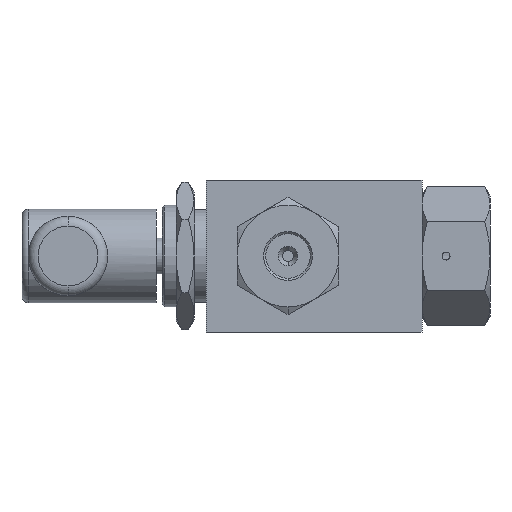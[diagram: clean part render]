
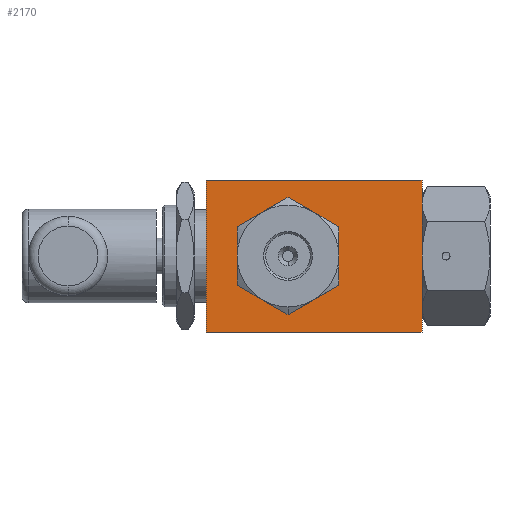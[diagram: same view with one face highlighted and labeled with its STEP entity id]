
A CAD part, left-side view. The second image highlights one B-rep face of the part: STEP entity #2170.
In plain terms, the highlighted planar face has unit normal (-1, 0, 0).
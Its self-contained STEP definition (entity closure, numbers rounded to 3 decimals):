
#88 = EDGE_CURVE ( 'NONE', #2340, #2541, #6264, .T. ) ;
#187 = VECTOR ( 'NONE', #4804, 1000. ) ;
#206 = DIRECTION ( 'NONE',  ( 1., 0., 0. ) ) ;
#281 = CARTESIAN_POINT ( 'NONE',  ( -33.25, 6.5, 0. ) ) ;
#298 = EDGE_CURVE ( 'NONE', #2340, #3235, #3786, .T. ) ;
#313 = CARTESIAN_POINT ( 'NONE',  ( -33.25, 6.5, 0. ) ) ;
#364 = CIRCLE ( 'NONE', #6436, 11. ) ;
#715 = EDGE_CURVE ( 'NONE', #2480, #5540, #797, .T. ) ;
#743 = CARTESIAN_POINT ( 'NONE',  ( -33.25, 6.5, 0. ) ) ;
#785 = AXIS2_PLACEMENT_3D ( 'NONE', #5078, #206, #1385 ) ;
#797 = CIRCLE ( 'NONE', #5775, 11. ) ;
#833 = DIRECTION ( 'NONE',  ( 1., 0., 0. ) ) ;
#936 = CARTESIAN_POINT ( 'NONE',  ( -33.25, 6.5, 0. ) ) ;
#1102 = EDGE_CURVE ( 'NONE', #3235, #1226, #6272, .T. ) ;
#1203 = CIRCLE ( 'NONE', #1304, 11. ) ;
#1221 = CARTESIAN_POINT ( 'NONE',  ( -33.25, 12., 9.526 ) ) ;
#1226 = VERTEX_POINT ( 'NONE', #2336 ) ;
#1269 = EDGE_CURVE ( 'NONE', #4660, #2717, #1203, .T. ) ;
#1294 = DIRECTION ( 'NONE',  ( 0., 0., -1. ) ) ;
#1304 = AXIS2_PLACEMENT_3D ( 'NONE', #743, #2750, #3310 ) ;
#1328 = DIRECTION ( 'NONE',  ( 0., 0., -1. ) ) ;
#1385 = DIRECTION ( 'NONE',  ( 0., 0., -1. ) ) ;
#1432 = DIRECTION ( 'NONE',  ( 0., -1., 0. ) ) ;
#1524 = CARTESIAN_POINT ( 'NONE',  ( -33.25, 6.5, 0. ) ) ;
#1593 = CARTESIAN_POINT ( 'NONE',  ( -33.25, 6.5, 0. ) ) ;
#1731 = LINE ( 'NONE', #2685, #2704 ) ;
#1759 = EDGE_CURVE ( 'NONE', #2717, #6028, #2492, .T. ) ;
#1799 = PLANE ( 'NONE',  #785 ) ;
#1848 = ORIENTED_EDGE ( 'NONE', *, *, #1759, .T. ) ;
#1849 = CARTESIAN_POINT ( 'NONE',  ( -33.25, 17.5, 0. ) ) ;
#1990 = VERTEX_POINT ( 'NONE', #4886 ) ;
#2016 = AXIS2_PLACEMENT_3D ( 'NONE', #1593, #833, #6775 ) ;
#2170 = ADVANCED_FACE ( 'NONE', ( #6106, #2894 ), #1799, .F. ) ;
#2336 = CARTESIAN_POINT ( 'NONE',  ( -33.25, -27., -19. ) ) ;
#2340 = VERTEX_POINT ( 'NONE', #3566 ) ;
#2397 = DIRECTION ( 'NONE',  ( 1., 0., 0. ) ) ;
#2409 = EDGE_CURVE ( 'NONE', #3675, #1990, #4119, .T. ) ;
#2460 = CARTESIAN_POINT ( 'NONE',  ( -33.25, 1., -9.526 ) ) ;
#2480 = VERTEX_POINT ( 'NONE', #2460 ) ;
#2492 = CIRCLE ( 'NONE', #6352, 11. ) ;
#2539 = ORIENTED_EDGE ( 'NONE', *, *, #4750, .T. ) ;
#2541 = VERTEX_POINT ( 'NONE', #3115 ) ;
#2667 = ORIENTED_EDGE ( 'NONE', *, *, #298, .T. ) ;
#2680 = CARTESIAN_POINT ( 'NONE',  ( -33.25, -27., -19. ) ) ;
#2685 = CARTESIAN_POINT ( 'NONE',  ( -33.25, -27., 19. ) ) ;
#2704 = VECTOR ( 'NONE', #4288, 1000. ) ;
#2717 = VERTEX_POINT ( 'NONE', #1221 ) ;
#2750 = DIRECTION ( 'NONE',  ( 1., 0., 0. ) ) ;
#2810 = AXIS2_PLACEMENT_3D ( 'NONE', #1524, #5625, #4120 ) ;
#2894 = FACE_BOUND ( 'NONE', #6428, .T. ) ;
#2979 = ORIENTED_EDGE ( 'NONE', *, *, #1102, .T. ) ;
#3115 = CARTESIAN_POINT ( 'NONE',  ( -33.25, -27., 19. ) ) ;
#3235 = VERTEX_POINT ( 'NONE', #4626 ) ;
#3310 = DIRECTION ( 'NONE',  ( 0., 0., -1. ) ) ;
#3548 = DIRECTION ( 'NONE',  ( 1., 0., 0. ) ) ;
#3566 = CARTESIAN_POINT ( 'NONE',  ( -33.25, 27., 19. ) ) ;
#3663 = CARTESIAN_POINT ( 'NONE',  ( -33.25, 6.5, 11. ) ) ;
#3675 = VERTEX_POINT ( 'NONE', #3822 ) ;
#3698 = ORIENTED_EDGE ( 'NONE', *, *, #5223, .T. ) ;
#3704 = VECTOR ( 'NONE', #5884, 1000. ) ;
#3786 = LINE ( 'NONE', #4382, #3704 ) ;
#3822 = CARTESIAN_POINT ( 'NONE',  ( -33.25, 1., 9.526 ) ) ;
#3975 = CARTESIAN_POINT ( 'NONE',  ( -33.25, 12., -9.526 ) ) ;
#4119 = CIRCLE ( 'NONE', #2016, 11. ) ;
#4120 = DIRECTION ( 'NONE',  ( 0., 0., -1. ) ) ;
#4133 = CARTESIAN_POINT ( 'NONE',  ( -33.25, -27., 19. ) ) ;
#4288 = DIRECTION ( 'NONE',  ( 0., 0., -1. ) ) ;
#4378 = AXIS2_PLACEMENT_3D ( 'NONE', #936, #5149, #4821 ) ;
#4382 = CARTESIAN_POINT ( 'NONE',  ( -33.25, 27., 19. ) ) ;
#4485 = ORIENTED_EDGE ( 'NONE', *, *, #88, .F. ) ;
#4490 = CIRCLE ( 'NONE', #4378, 11. ) ;
#4626 = CARTESIAN_POINT ( 'NONE',  ( -33.25, 27., -19. ) ) ;
#4660 = VERTEX_POINT ( 'NONE', #1849 ) ;
#4730 = ORIENTED_EDGE ( 'NONE', *, *, #6291, .T. ) ;
#4750 = EDGE_CURVE ( 'NONE', #6028, #3675, #364, .T. ) ;
#4804 = DIRECTION ( 'NONE',  ( 0., -1., 0. ) ) ;
#4821 = DIRECTION ( 'NONE',  ( 0., 0., -1. ) ) ;
#4886 = CARTESIAN_POINT ( 'NONE',  ( -33.25, -4.5, 0. ) ) ;
#5078 = CARTESIAN_POINT ( 'NONE',  ( -33.25, -27., 19. ) ) ;
#5116 = DIRECTION ( 'NONE',  ( 0., 0., -1. ) ) ;
#5149 = DIRECTION ( 'NONE',  ( 1., 0., 0. ) ) ;
#5187 = ORIENTED_EDGE ( 'NONE', *, *, #2409, .T. ) ;
#5223 = EDGE_CURVE ( 'NONE', #1990, #2480, #5791, .T. ) ;
#5540 = VERTEX_POINT ( 'NONE', #3975 ) ;
#5625 = DIRECTION ( 'NONE',  ( 1., 0., 0. ) ) ;
#5751 = EDGE_CURVE ( 'NONE', #2541, #1226, #1731, .T. ) ;
#5775 = AXIS2_PLACEMENT_3D ( 'NONE', #281, #2397, #5116 ) ;
#5791 = CIRCLE ( 'NONE', #2810, 11. ) ;
#5884 = DIRECTION ( 'NONE',  ( 0., 0., -1. ) ) ;
#5982 = ORIENTED_EDGE ( 'NONE', *, *, #5751, .F. ) ;
#6028 = VERTEX_POINT ( 'NONE', #3663 ) ;
#6053 = DIRECTION ( 'NONE',  ( 1., 0., 0. ) ) ;
#6106 = FACE_OUTER_BOUND ( 'NONE', #6597, .T. ) ;
#6133 = ORIENTED_EDGE ( 'NONE', *, *, #1269, .T. ) ;
#6264 = LINE ( 'NONE', #4133, #6335 ) ;
#6272 = LINE ( 'NONE', #2680, #187 ) ;
#6291 = EDGE_CURVE ( 'NONE', #5540, #4660, #4490, .T. ) ;
#6335 = VECTOR ( 'NONE', #1432, 1000. ) ;
#6352 = AXIS2_PLACEMENT_3D ( 'NONE', #313, #6053, #1294 ) ;
#6428 = EDGE_LOOP ( 'NONE', ( #6576, #4730, #6133, #1848, #2539, #5187, #3698 ) ) ;
#6436 = AXIS2_PLACEMENT_3D ( 'NONE', #6573, #3548, #1328 ) ;
#6573 = CARTESIAN_POINT ( 'NONE',  ( -33.25, 6.5, 0. ) ) ;
#6576 = ORIENTED_EDGE ( 'NONE', *, *, #715, .T. ) ;
#6597 = EDGE_LOOP ( 'NONE', ( #2979, #5982, #4485, #2667 ) ) ;
#6775 = DIRECTION ( 'NONE',  ( 0., 0., -1. ) ) ;
